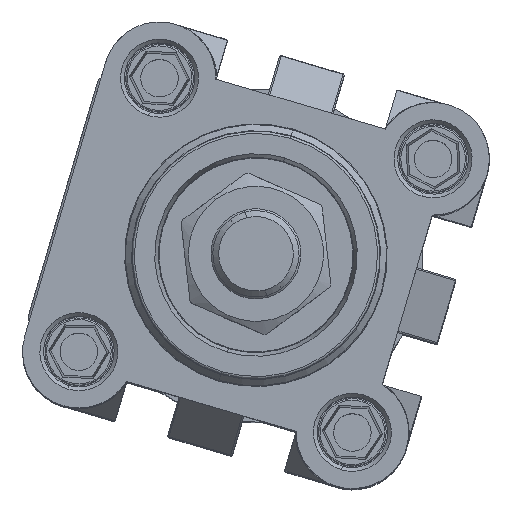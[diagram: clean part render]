
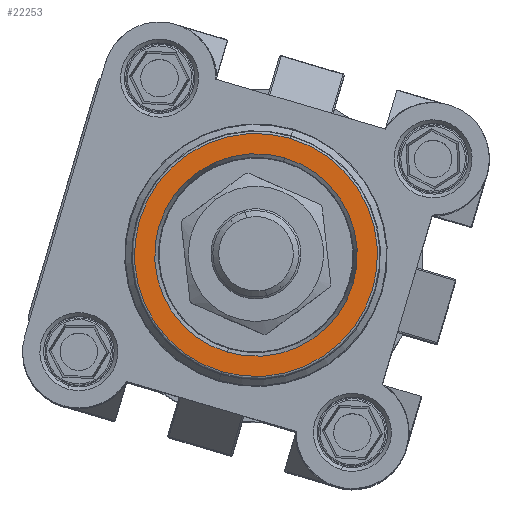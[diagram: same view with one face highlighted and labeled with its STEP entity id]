
A CAD part, top view. The second image highlights one B-rep face of the part: STEP entity #22253.
In plain terms, the highlighted planar face has unit normal (0, 0, 1) as drawn and (0, 0, -1) by its records, which use the part's own axes.
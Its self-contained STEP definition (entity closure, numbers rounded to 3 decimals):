
#361 = ORIENTED_EDGE ( 'NONE', *, *, #8081, .F. ) ;
#888 = AXIS2_PLACEMENT_3D ( 'NONE', #25154, #13077, #973 ) ;
#973 = DIRECTION ( 'NONE',  ( -1., 0., 0. ) ) ;
#1384 = VERTEX_POINT ( 'NONE', #13338 ) ;
#3438 = DIRECTION ( 'NONE',  ( 0., 0., -1. ) ) ;
#3993 = ORIENTED_EDGE ( 'NONE', *, *, #26095, .T. ) ;
#3994 = VERTEX_POINT ( 'NONE', #12226 ) ;
#4120 = AXIS2_PLACEMENT_3D ( 'NONE', #19145, #7002, #21173 ) ;
#4584 = ORIENTED_EDGE ( 'NONE', *, *, #13662, .F. ) ;
#6821 = DIRECTION ( 'NONE',  ( 0., 0., -1. ) ) ;
#7002 = DIRECTION ( 'NONE',  ( 0., 0., -1. ) ) ;
#7919 = VERTEX_POINT ( 'NONE', #24348 ) ;
#8081 = EDGE_CURVE ( 'NONE', #7919, #3994, #15078, .T. ) ;
#8265 = AXIS2_PLACEMENT_3D ( 'NONE', #11472, #3438, #17582 ) ;
#9671 = FACE_BOUND ( 'NONE', #10006, .T. ) ;
#10006 = EDGE_LOOP ( 'NONE', ( #4584, #361 ) ) ;
#10082 = DIRECTION ( 'NONE',  ( 0., 0., -1. ) ) ;
#10185 = EDGE_LOOP ( 'NONE', ( #26054, #3993 ) ) ;
#11472 = CARTESIAN_POINT ( 'NONE',  ( 21., 21., -20.1 ) ) ;
#11549 = AXIS2_PLACEMENT_3D ( 'NONE', #22201, #10082, #24229 ) ;
#12226 = CARTESIAN_POINT ( 'NONE',  ( 7.5, 21., -20.1 ) ) ;
#13024 = CIRCLE ( 'NONE', #888, 13.5 ) ;
#13077 = DIRECTION ( 'NONE',  ( 0., 0., -1. ) ) ;
#13338 = CARTESIAN_POINT ( 'NONE',  ( 4.8, 21., -20.1 ) ) ;
#13662 = EDGE_CURVE ( 'NONE', #3994, #7919, #13024, .T. ) ;
#14311 = CARTESIAN_POINT ( 'NONE',  ( 37.2, 21., -20.1 ) ) ;
#15078 = CIRCLE ( 'NONE', #21576, 13.5 ) ;
#15106 = FACE_OUTER_BOUND ( 'NONE', #10185, .T. ) ;
#15569 = PLANE ( 'NONE',  #8265 ) ;
#17582 = DIRECTION ( 'NONE',  ( -1., 0., 0. ) ) ;
#18310 = CIRCLE ( 'NONE', #4120, 16.2 ) ;
#18570 = VERTEX_POINT ( 'NONE', #14311 ) ;
#18968 = CARTESIAN_POINT ( 'NONE',  ( 21., 21., -20.1 ) ) ;
#19145 = CARTESIAN_POINT ( 'NONE',  ( 21., 21., -20.1 ) ) ;
#21004 = DIRECTION ( 'NONE',  ( -1., 0., 0. ) ) ;
#21173 = DIRECTION ( 'NONE',  ( -1., 0., 0. ) ) ;
#21576 = AXIS2_PLACEMENT_3D ( 'NONE', #18968, #6821, #21004 ) ;
#22201 = CARTESIAN_POINT ( 'NONE',  ( 21., 21., -20.1 ) ) ;
#22253 = ADVANCED_FACE ( 'NONE', ( #15106, #9671 ), #15569, .T. ) ;
#24044 = EDGE_CURVE ( 'NONE', #1384, #18570, #25722, .T. ) ;
#24229 = DIRECTION ( 'NONE',  ( -1., 0., 0. ) ) ;
#24348 = CARTESIAN_POINT ( 'NONE',  ( 34.5, 21., -20.1 ) ) ;
#25154 = CARTESIAN_POINT ( 'NONE',  ( 21., 21., -20.1 ) ) ;
#25722 = CIRCLE ( 'NONE', #11549, 16.2 ) ;
#26054 = ORIENTED_EDGE ( 'NONE', *, *, #24044, .T. ) ;
#26095 = EDGE_CURVE ( 'NONE', #18570, #1384, #18310, .T. ) ;
